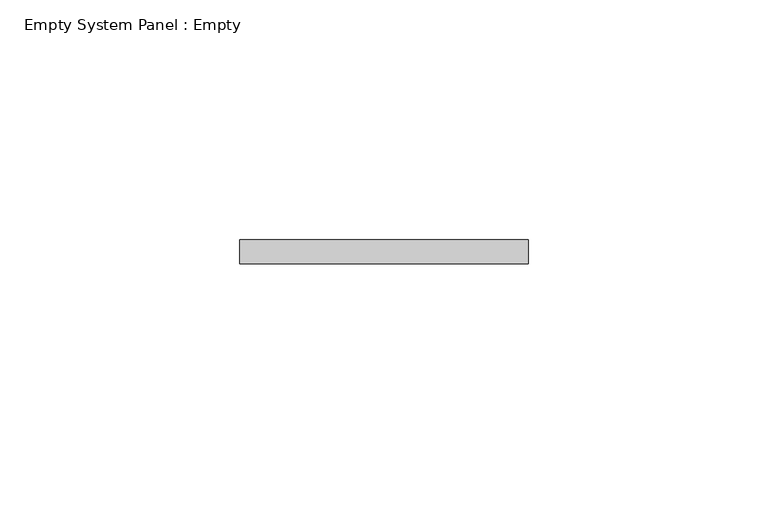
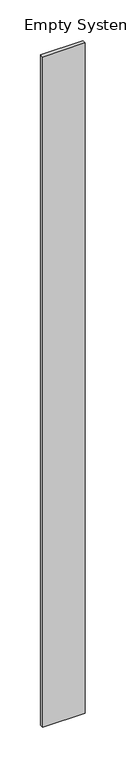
"""IFC4 building model written with IfcOpenShell, lengths in millimetres: plate geometry, Empty System Panel : Empty."""

from ifc_helpers import new_model, si_unit, origin, origin_with_axes, place, context, project, spatial, polyline, outline, extrude, source, transform, mapped, element, save


def empty_system_panel_empty_c051c962(model_context):
    return source(origin(), model_context, "Body", "SweptSolid", [
        extrude(outline(polyline([(30.0000002, -102.5), (-30.0000002, -102.5), (-30.0000002, -97.5), (30.0000002, -97.5), (30.0000002, -102.5)])), origin_with_axes(), (0.0, 0.0, 1.0), 1000.0),
    ])


if __name__ == "__main__":
    model = new_model("IFC4")
    model_context = context("Model", 3, world=origin())
    ifc_project = project(units=[si_unit("LENGTHUNIT", "METRE", prefix="MILLI")], contexts=[model_context])
    site = spatial("IfcSite", under=ifc_project)
    building = spatial("IfcBuilding", under=site)
    placement = place(None, origin())
    empty_system_panel_empty_shape = empty_system_panel_empty_c051c962(model_context)
    element("IfcPlate", 1, ObjectType="Empty System Panel : Empty", at=placement, inside=building, context=model_context, shape_type="MappedRepresentation", body=[
        mapped(empty_system_panel_empty_shape, transform((0.0, 0.0, 0.0), x_axis=(1.0, 0.0, 0.0), y_axis=(0.0, 1.0, 0.0), z_axis=(0.0, 0.0, 1.0))),
    ])
    save(model, "model.ifc")
